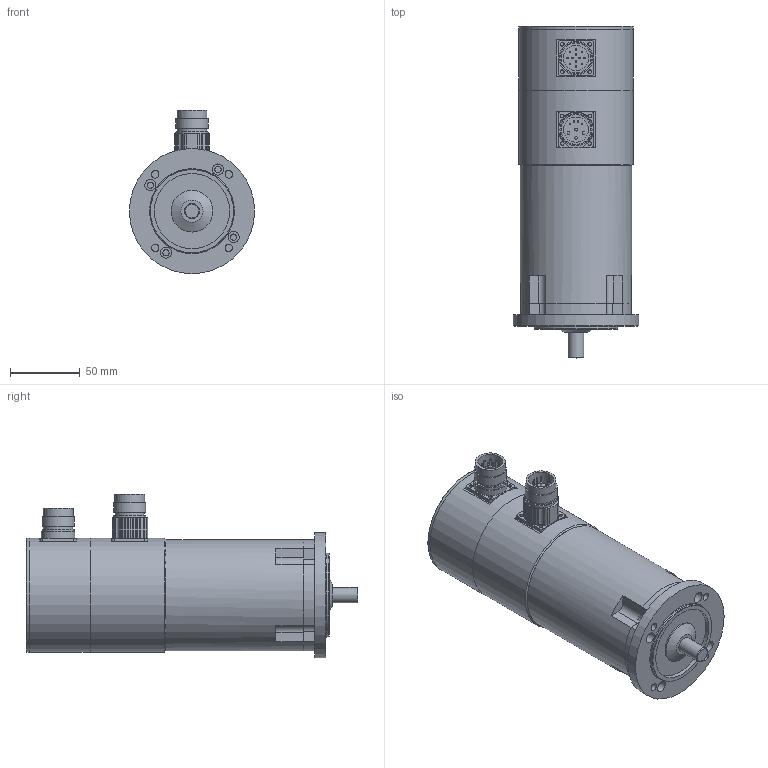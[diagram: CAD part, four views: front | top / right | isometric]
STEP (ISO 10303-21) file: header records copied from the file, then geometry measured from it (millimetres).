
FILE_DESCRIPTION(/* description */ (''),/* implementation_level */ '2;1');
FILE_NAME(/* name */ 'ksy_268e_md_r4',/* time_stamp */ '2007-03-16T13:30:12+01:00',/* author */ (''),/* organization */ (''),/* preprocessor_version */ 'ST-DEVELOPER v8',/* originating_system */ 'UNIGRAPHICS SOLUTIONS - UNIGRAPHICS 18.0',/* authorisation */ '');
FILE_SCHEMA (('AUTOMOTIVE_DESIGN { 1 2 10303 214 0 1 1 1 }'));
Length unit declared in the file: millimetre
Products named in the file (11): 014261_0; 014260_0; 064260_0; 064314_0; 112090_0; 06330301_0; DIN3760_org_A12x24x7_0; Rotor_SY 26.. E_0; Gehaeuse_SY26.. E_0; 112072_0; KSY264_E-MD-R4_0
Assembly tree (10 placements, depth 2):
  KSY264_E-MD-R4_0
    112072_0
    Gehaeuse_SY26.. E_0
    Rotor_SY 26.. E_0
    DIN3760_org_A12x24x7_0
    06330301_0
    112090_0
    064314_0
    064260_0
    014260_0
    014261_0
Bounding box: 90 x 238.5 x 117.5 mm (x, y, z)
Volume: 880029.4 mm3; surface area: 148970.5 mm2
Topology: 10 solids, 10 shells, 297 faces, 741 edges, 477 vertices
Faces by surface type: cylinder 159, plane 94, sphere 20, cone 17, torus 7
Full cylindrical faces by diameter (mm): 1 x16, 2 x4, 2.7 x8, 3.5 x4, 4.5 x4, 5.5 x4, 8 x4, 10.52 x1, 10.94 x1, 11 x1, 12 x2, 12.3 x1, 18 x2, 20 x4, 21 x3, 21.5 x2, 23 x4, 24 x3, 30 x1, 32 x1, 54 x1, 60 x2, 63.3 x1, 64 x1, 64.3 x1, 65 x2, 66 x2, 80 x1, 82 x3, 90 x1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
Entity records: 8041 total; most frequent: DIRECTION 1502, CARTESIAN_POINT 1249, ORIENTED_EDGE 1052, AXIS2_PLACEMENT_3D 668, EDGE_CURVE 526, EDGE_LOOP 506, VERTEX_POINT 415, CIRCLE 360
